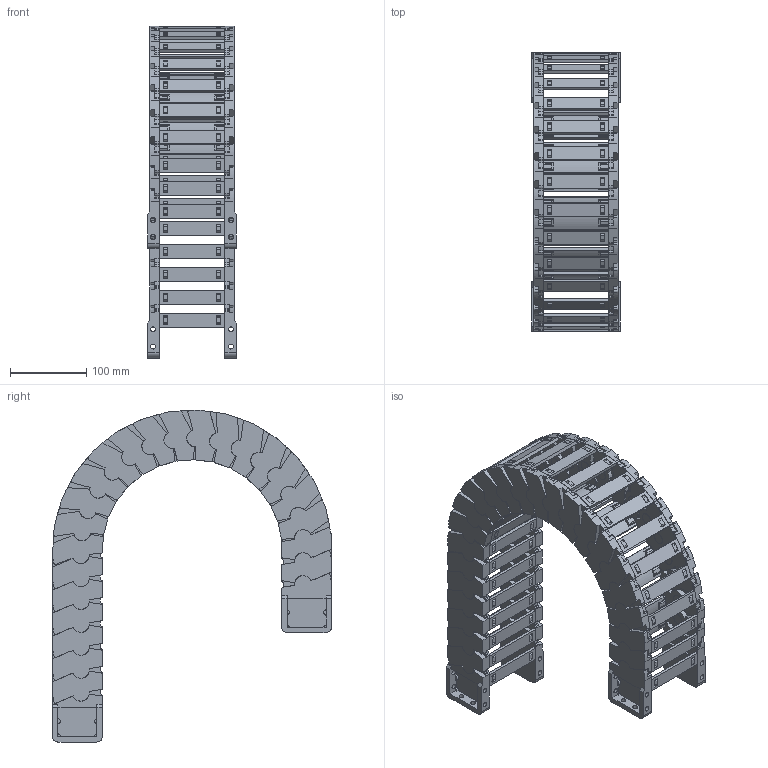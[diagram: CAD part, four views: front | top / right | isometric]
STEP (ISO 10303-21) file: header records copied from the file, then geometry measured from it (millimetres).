
FILE_DESCRIPTION((''),'2;1');
FILE_NAME('JY-52X85-R150_ASM','2025-09-12T14:42:03',('admin'),(''),'CREO PARAMETRIC BY PTC INC, 2021023','CREO PARAMETRIC BY PTC INC, 2021023','');
FILE_SCHEMA(('CONFIG_CONTROL_DESIGN'));
Length unit declared in the file: millimetre
Products named in the file (11): 52XL-L; 42-52XL-YP; 52XL-R; ASM0001_ASM; 52-LTT-A-L; 52-LTT-A-R; 52XL-LTT-A_ASM; 52-LTT-B-L; 52-LTT-B-R; 52XL-LTT-B_ASM; JY-52X85-R150_ASM
Assembly tree (37 placements, depth 3):
  JY-52X85-R150_ASM
    ASM0001_ASM  x23
      52XL-L
      42-52XL-YP
      52XL-R
    52XL-LTT-A_ASM
      52-LTT-A-L
      42-52XL-YP  x2
      52-LTT-A-R
    52XL-LTT-B_ASM
      52-LTT-B-L
      42-52XL-YP  x2
      52-LTT-B-R
Bounding box: 116 x 365.02 x 434.64 mm (x, y, z)
Volume: 1452699.2 mm3; surface area: 722517.9 mm2
Topology: 100 solids, 100 shells, 5112 faces, 15490 edges, 10576 vertices
Faces by surface type: plane 3634, cylinder 1094, cone 384
Entity records: 18514 total; most frequent: CARTESIAN_POINT 3398, DIRECTION 3142, ORIENTED_EDGE 3124, EDGE_CURVE 1562, VECTOR 1074, LINE 1074, VERTEX_POINT 1056, AXIS2_PLACEMENT_3D 1034
